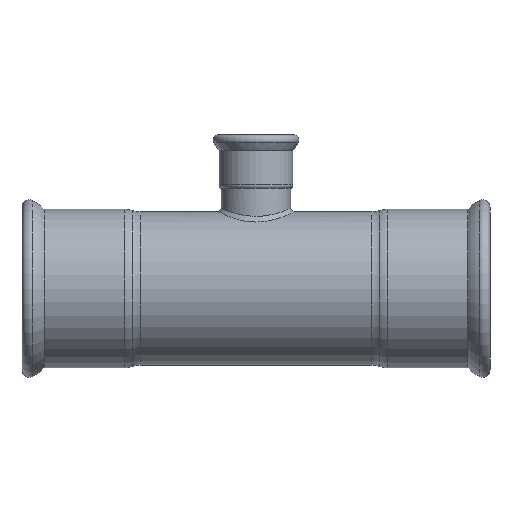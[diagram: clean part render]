
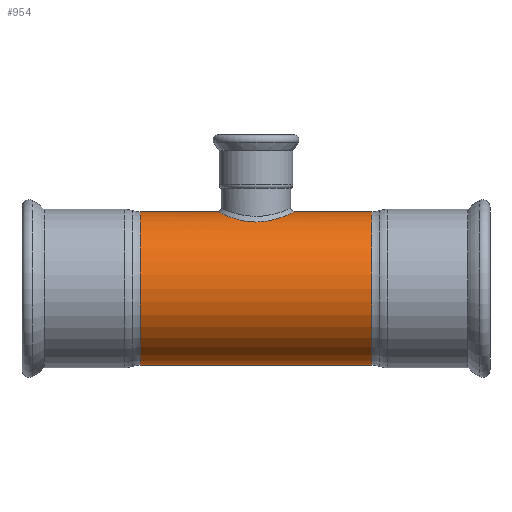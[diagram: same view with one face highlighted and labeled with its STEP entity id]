
A CAD part, front view. The second image highlights one B-rep face of the part: STEP entity #954.
In plain terms, the highlighted cylindrical face has radius 84.15 mm (diameter 168.3 mm), a full revolution.
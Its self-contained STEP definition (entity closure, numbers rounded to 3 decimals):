
#18=FACE_BOUND('',#151,.T.);
#23=B_SPLINE_CURVE_WITH_KNOTS('',3,(#1858,#1859,#1860,#1861,#1862,#1863,
#1864,#1865,#1866,#1867,#1868,#1869,#1870,#1871,#1872,#1873,#1874,#1875,
#1876,#1877,#1878,#1879,#1880,#1881,#1882,#1883,#1884,#1885,#1886,#1887,
#1888,#1889,#1890,#1891,#1892,#1893,#1894,#1895,#1896,#1897,#1898,#1899,
#1900,#1901,#1902,#1903,#1904,#1905,#1906,#1907,#1908,#1909,#1910,#1911,
#1912,#1913,#1914,#1915),.UNSPECIFIED.,.F.,.F.,(4,1,1,2,2,1,1,2,2,2,1,2,
2,1,1,2,1,2,2,1,1,2,2,1,2,1,1,2,2,1,2,2,2,1,1,2,4),(-0.954,
-0.943,-0.931,-0.908,-0.86,
-0.837,-0.831,-0.813,-0.765,
-0.716,-0.692,-0.668,-0.619,
-0.596,-0.584,-0.572,-0.56,
-0.525,-0.477,-0.466,-0.443,
-0.431,-0.384,-0.348,-0.336,
-0.324,-0.312,-0.289,-0.24,
-0.216,-0.192,-0.143,-0.095,
-0.08,-0.071,-0.048,0.),
 .UNSPECIFIED.);
#24=B_SPLINE_CURVE_WITH_KNOTS('',3,(#1916,#1917,#1918,#1919,#1920,#1921,
#1922),.UNSPECIFIED.,.F.,.F.,(4,3,4),(0.,0.023,0.046),
 .UNSPECIFIED.);
#102=FACE_OUTER_BOUND('',#150,.T.);
#150=EDGE_LOOP('',(#879,#880,#881,#882,#883,#884,#885,#886));
#151=EDGE_LOOP('',(#887,#888));
#172=LINE('',#2471,#193);
#193=VECTOR('',#1489,84.15);
#270=CIRCLE('',#1074,84.15);
#271=CIRCLE('',#1075,84.15);
#272=CIRCLE('',#1076,84.15);
#299=CIRCLE('',#1113,84.15);
#300=CIRCLE('',#1114,84.15);
#301=CIRCLE('',#1115,84.15);
#356=VERTEX_POINT('',#1856);
#357=VERTEX_POINT('',#1857);
#390=VERTEX_POINT('',#2319);
#391=VERTEX_POINT('',#2321);
#392=VERTEX_POINT('',#2323);
#413=VERTEX_POINT('',#2384);
#414=VERTEX_POINT('',#2386);
#415=VERTEX_POINT('',#2388);
#479=EDGE_CURVE('',#356,#357,#23,.T.);
#480=EDGE_CURVE('',#357,#356,#24,.T.);
#528=EDGE_CURVE('',#390,#391,#270,.T.);
#529=EDGE_CURVE('',#391,#392,#271,.T.);
#530=EDGE_CURVE('',#392,#390,#272,.T.);
#560=EDGE_CURVE('',#414,#413,#299,.T.);
#561=EDGE_CURVE('',#415,#414,#300,.T.);
#562=EDGE_CURVE('',#413,#415,#301,.T.);
#583=EDGE_CURVE('',#415,#391,#172,.T.);
#879=ORIENTED_EDGE('',*,*,#560,.T.);
#880=ORIENTED_EDGE('',*,*,#562,.T.);
#881=ORIENTED_EDGE('',*,*,#583,.T.);
#882=ORIENTED_EDGE('',*,*,#528,.F.);
#883=ORIENTED_EDGE('',*,*,#530,.F.);
#884=ORIENTED_EDGE('',*,*,#529,.F.);
#885=ORIENTED_EDGE('',*,*,#583,.F.);
#886=ORIENTED_EDGE('',*,*,#561,.T.);
#887=ORIENTED_EDGE('',*,*,#479,.T.);
#888=ORIENTED_EDGE('',*,*,#480,.T.);
#910=CYLINDRICAL_SURFACE('',#1139,84.15);
#954=ADVANCED_FACE('',(#102,#18),#910,.T.);
#1074=AXIS2_PLACEMENT_3D('',#2322,#1351,#1352);
#1075=AXIS2_PLACEMENT_3D('',#2324,#1353,#1354);
#1076=AXIS2_PLACEMENT_3D('',#2325,#1355,#1356);
#1113=AXIS2_PLACEMENT_3D('',#2387,#1432,#1433);
#1114=AXIS2_PLACEMENT_3D('',#2389,#1434,#1435);
#1115=AXIS2_PLACEMENT_3D('',#2390,#1436,#1437);
#1139=AXIS2_PLACEMENT_3D('',#2470,#1487,#1488);
#1351=DIRECTION('center_axis',(-1.,0.,0.));
#1352=DIRECTION('ref_axis',(0.,0.,-1.));
#1353=DIRECTION('center_axis',(-1.,0.,0.));
#1354=DIRECTION('ref_axis',(0.,0.,-1.));
#1355=DIRECTION('center_axis',(-1.,0.,0.));
#1356=DIRECTION('ref_axis',(0.,0.,-1.));
#1432=DIRECTION('center_axis',(-1.,0.,0.));
#1433=DIRECTION('ref_axis',(0.,0.,-1.));
#1434=DIRECTION('center_axis',(-1.,0.,0.));
#1435=DIRECTION('ref_axis',(0.,0.,-1.));
#1436=DIRECTION('center_axis',(-1.,0.,0.));
#1437=DIRECTION('ref_axis',(0.,0.,-1.));
#1487=DIRECTION('center_axis',(-1.,0.,0.));
#1488=DIRECTION('ref_axis',(0.,1.,0.));
#1489=DIRECTION('',(-1.,0.,0.));
#1856=CARTESIAN_POINT('',(0.,-41.848,73.007));
#1857=CARTESIAN_POINT('',(12.611,-39.902,74.088));
#1858=CARTESIAN_POINT('Ctrl Pts',(-0.003,-41.848,
73.007));
#1859=CARTESIAN_POINT('Ctrl Pts',(-1.078,-41.848,73.006));
#1860=CARTESIAN_POINT('Ctrl Pts',(-3.219,-41.765,73.054));
#1861=CARTESIAN_POINT('Ctrl Pts',(-7.549,-41.264,73.34));
#1862=CARTESIAN_POINT('Ctrl Pts',(-10.659,-40.519,73.756));
#1863=CARTESIAN_POINT('Ctrl Pts',(-16.678,-38.619,74.779));
#1864=CARTESIAN_POINT('Ctrl Pts',(-20.542,-36.696,75.772));
#1865=CARTESIAN_POINT('Ctrl Pts',(-25.615,-33.156,77.354));
#1866=CARTESIAN_POINT('Ctrl Pts',(-27.63,-31.512,78.045));
#1867=CARTESIAN_POINT('Ctrl Pts',(-30.466,-28.744,79.1));
#1868=CARTESIAN_POINT('Ctrl Pts',(-31.786,-27.258,79.622));
#1869=CARTESIAN_POINT('Ctrl Pts',(-35.234,-22.945,81.032));
#1870=CARTESIAN_POINT('Ctrl Pts',(-37.38,-19.284,82.008));
#1871=CARTESIAN_POINT('Ctrl Pts',(-40.48,-11.431,83.468));
#1872=CARTESIAN_POINT('Ctrl Pts',(-41.434,-7.21,83.946));
#1873=CARTESIAN_POINT('Ctrl Pts',(-41.882,-1.055,84.167));
#1874=CARTESIAN_POINT('Ctrl Pts',(-41.896,3.063,84.174));
#1875=CARTESIAN_POINT('Ctrl Pts',(-41.26,7.298,83.858));
#1876=CARTESIAN_POINT('Ctrl Pts',(-39.865,13.409,83.178));
#1877=CARTESIAN_POINT('Ctrl Pts',(-38.283,17.416,82.414));
#1878=CARTESIAN_POINT('Ctrl Pts',(-35.167,22.772,81.03));
#1879=CARTESIAN_POINT('Ctrl Pts',(-33.421,25.332,80.278));
#1880=CARTESIAN_POINT('Ctrl Pts',(-30.765,28.419,79.217));
#1881=CARTESIAN_POINT('Ctrl Pts',(-29.384,29.812,78.696));
#1882=CARTESIAN_POINT('Ctrl Pts',(-27.944,31.166,78.169));
#1883=CARTESIAN_POINT('Ctrl Pts',(-24.92,33.819,77.098));
#1884=CARTESIAN_POINT('Ctrl Pts',(-21.381,36.112,76.024));
#1885=CARTESIAN_POINT('Ctrl Pts',(-14.773,39.385,74.393));
#1886=CARTESIAN_POINT('Ctrl Pts',(-10.545,40.726,73.641));
#1887=CARTESIAN_POINT('Ctrl Pts',(-5.317,41.522,73.193));
#1888=CARTESIAN_POINT('Ctrl Pts',(-2.15,41.889,72.983));
#1889=CARTESIAN_POINT('Ctrl Pts',(2.15,41.889,72.983));
#1890=CARTESIAN_POINT('Ctrl Pts',(5.317,41.522,73.193));
#1891=CARTESIAN_POINT('Ctrl Pts',(10.545,40.726,73.641));
#1892=CARTESIAN_POINT('Ctrl Pts',(14.773,39.385,74.393));
#1893=CARTESIAN_POINT('Ctrl Pts',(21.381,36.112,76.024));
#1894=CARTESIAN_POINT('Ctrl Pts',(24.92,33.819,77.098));
#1895=CARTESIAN_POINT('Ctrl Pts',(27.944,31.166,78.169));
#1896=CARTESIAN_POINT('Ctrl Pts',(29.384,29.812,78.696));
#1897=CARTESIAN_POINT('Ctrl Pts',(30.765,28.419,79.217));
#1898=CARTESIAN_POINT('Ctrl Pts',(33.421,25.332,80.278));
#1899=CARTESIAN_POINT('Ctrl Pts',(35.167,22.772,81.03));
#1900=CARTESIAN_POINT('Ctrl Pts',(38.283,17.416,82.414));
#1901=CARTESIAN_POINT('Ctrl Pts',(39.865,13.409,83.178));
#1902=CARTESIAN_POINT('Ctrl Pts',(41.26,7.298,83.858));
#1903=CARTESIAN_POINT('Ctrl Pts',(41.896,3.063,84.174));
#1904=CARTESIAN_POINT('Ctrl Pts',(41.882,-1.055,84.167));
#1905=CARTESIAN_POINT('Ctrl Pts',(41.434,-7.21,83.946));
#1906=CARTESIAN_POINT('Ctrl Pts',(40.48,-11.431,83.468));
#1907=CARTESIAN_POINT('Ctrl Pts',(37.381,-19.283,82.009));
#1908=CARTESIAN_POINT('Ctrl Pts',(35.233,-22.946,81.031));
#1909=CARTESIAN_POINT('Ctrl Pts',(31.94,-27.066,79.685));
#1910=CARTESIAN_POINT('Ctrl Pts',(30.632,-28.562,79.165));
#1911=CARTESIAN_POINT('Ctrl Pts',(27.828,-31.351,78.113));
#1912=CARTESIAN_POINT('Ctrl Pts',(25.616,-33.155,77.354));
#1913=CARTESIAN_POINT('Ctrl Pts',(20.541,-36.697,75.772));
#1914=CARTESIAN_POINT('Ctrl Pts',(16.677,-38.617,74.78));
#1915=CARTESIAN_POINT('Ctrl Pts',(12.611,-39.902,74.088));
#1916=CARTESIAN_POINT('Ctrl Pts',(12.611,-39.902,74.088));
#1917=CARTESIAN_POINT('Ctrl Pts',(10.66,-40.519,73.756));
#1918=CARTESIAN_POINT('Ctrl Pts',(8.572,-41.016,73.478));
#1919=CARTESIAN_POINT('Ctrl Pts',(6.444,-41.348,73.291));
#1920=CARTESIAN_POINT('Ctrl Pts',(4.316,-41.68,73.104));
#1921=CARTESIAN_POINT('Ctrl Pts',(2.147,-41.847,73.007));
#1922=CARTESIAN_POINT('Ctrl Pts',(-0.003,-41.848,
73.007));
#2319=CARTESIAN_POINT('',(-127.36,0.,-84.15));
#2321=CARTESIAN_POINT('',(-127.36,-84.15,0.));
#2322=CARTESIAN_POINT('Origin',(-127.36,0.,0.));
#2323=CARTESIAN_POINT('',(-127.36,84.15,0.));
#2324=CARTESIAN_POINT('Origin',(-127.36,0.,0.));
#2325=CARTESIAN_POINT('Origin',(-127.36,0.,0.));
#2384=CARTESIAN_POINT('',(127.36,0.,-84.15));
#2386=CARTESIAN_POINT('',(127.36,84.15,0.));
#2387=CARTESIAN_POINT('Origin',(127.36,0.,0.));
#2388=CARTESIAN_POINT('',(127.36,-84.15,0.));
#2389=CARTESIAN_POINT('Origin',(127.36,0.,0.));
#2390=CARTESIAN_POINT('Origin',(127.36,0.,0.));
#2470=CARTESIAN_POINT('Origin',(0.,0.,0.));
#2471=CARTESIAN_POINT('',(0.,-84.15,0.));
